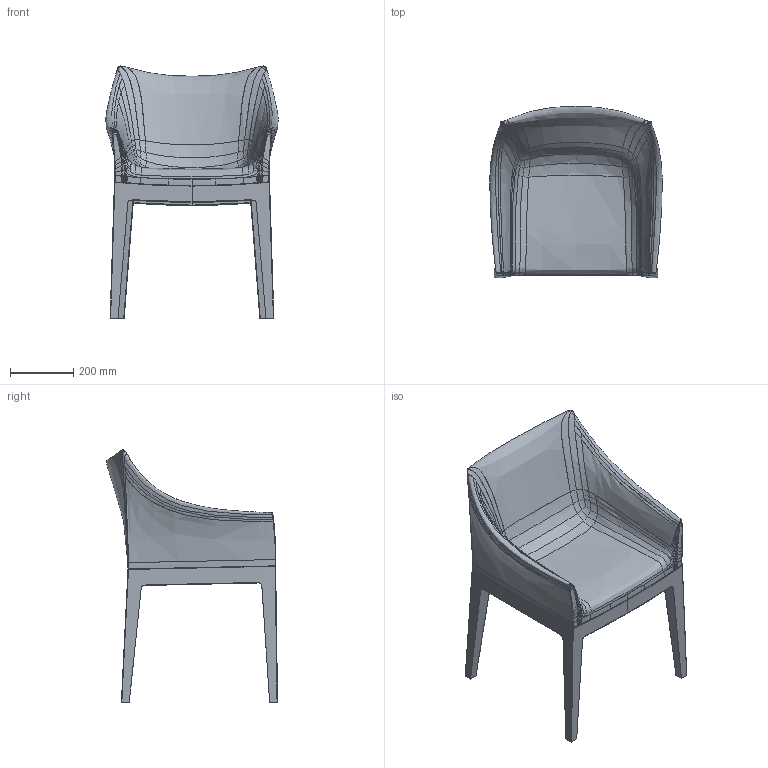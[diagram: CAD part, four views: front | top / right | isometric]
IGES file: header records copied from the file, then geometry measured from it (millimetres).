
Start section: START RECORD GO HERE.
Global section: file name: C:\Users\rendering\Desktop\3d host\CONSEGNA\Madame_3d_Philippe Starck_Kartell.igs; native system: Rhinoceros ( May 22 2017 ); preprocessor: Trout Lake IGES 012 May 22 2017; date: 171019.082145; units: millimetre
Bounding box: 546.3 x 542.25 x 799.36 mm (x, y, z)
Surface area: 2051768.4 mm2 (no closed solid volume)
Topology: 0 solids, 0 shells, 573 faces, 4486 edges, 4485 vertices
Faces by surface type: bspline 573
